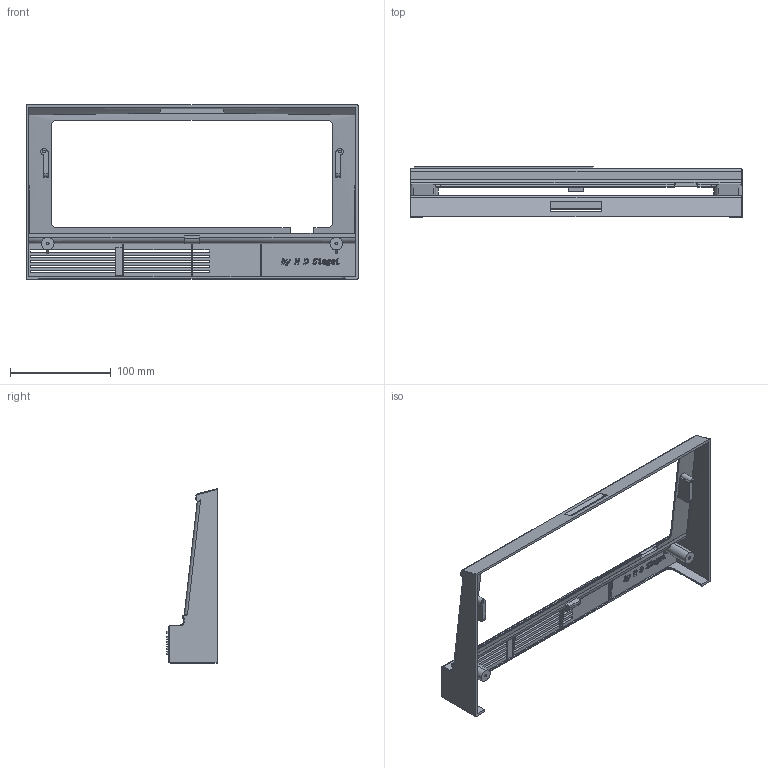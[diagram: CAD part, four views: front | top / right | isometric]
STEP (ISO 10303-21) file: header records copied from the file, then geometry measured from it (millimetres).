
FILE_DESCRIPTION (( 'STEP AP214' ), '1' );
FILE_NAME ('cocopi.STEP', '2021-10-25T14:18:11', ( '' ), ( '' ), 'SwSTEP 2.0', 'SolidWorks 2010', '' );
FILE_SCHEMA (( 'AUTOMOTIVE_DESIGN' ));
Length unit declared in the file: inch
Products named in the file (1): cocopi
Bounding box: 330.2 x 49.78 x 173.72 mm (x, y, z)
Volume: 102151.1 mm3; surface area: 106172.8 mm2
Topology: 1 solids, 1 shells, 422 faces, 1171 edges, 740 vertices
Faces by surface type: plane 251, bspline 83, cylinder 73, torus 15
Entity records: 20175 total; most frequent: CARTESIAN_POINT 9921, ORIENTED_EDGE 2342, DIRECTION 1773, EDGE_CURVE 1171, VECTOR 833, LINE 833, VERTEX_POINT 740, AXIS2_PLACEMENT_3D 470
